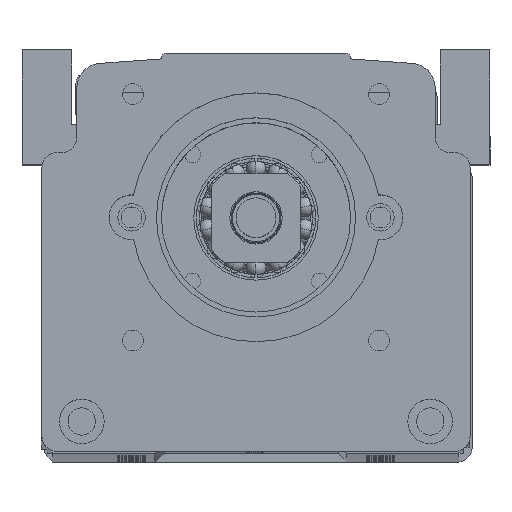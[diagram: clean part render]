
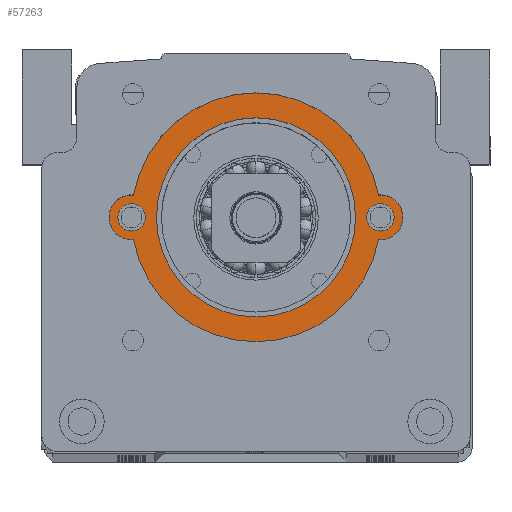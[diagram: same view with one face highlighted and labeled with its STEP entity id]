
A CAD part, top view. The second image highlights one B-rep face of the part: STEP entity #57263.
In plain terms, the highlighted planar face has unit normal (0, 0, 1).
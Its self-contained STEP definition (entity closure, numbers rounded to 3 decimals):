
#386 = CARTESIAN_POINT ( 'NONE',  ( -35.893, 5.327, 7. ) ) ;
#833 = FACE_BOUND ( 'NONE', #45775, .T. ) ;
#1641 = CIRCLE ( 'NONE', #65913, 2.75 ) ;
#2782 = EDGE_CURVE ( 'NONE', #11215, #67958, #67898, .T. ) ;
#3803 = EDGE_CURVE ( 'NONE', #17697, #31307, #25115, .T. ) ;
#4068 = AXIS2_PLACEMENT_3D ( 'NONE', #48713, #15307, #54299 ) ;
#4134 = CIRCLE ( 'NONE', #32275, 25. ) ;
#4361 = AXIS2_PLACEMENT_3D ( 'NONE', #28226, #67211, #33853 ) ;
#4595 = VERTEX_POINT ( 'NONE', #386 ) ;
#4916 = ORIENTED_EDGE ( 'NONE', *, *, #68003, .F. ) ;
#5383 = CARTESIAN_POINT ( 'NONE',  ( -8.143, 5.327, 7. ) ) ;
#5992 = AXIS2_PLACEMENT_3D ( 'NONE', #14630, #53622, #20259 ) ;
#7217 = DIRECTION ( 'NONE',  ( 0., 0., 1. ) ) ;
#9153 = PLANE ( 'NONE',  #45597 ) ;
#9473 = DIRECTION ( 'NONE',  ( 0., 0., 1. ) ) ;
#10166 = EDGE_CURVE ( 'NONE', #4595, #63465, #42145, .T. ) ;
#10446 = CIRCLE ( 'NONE', #28180, 2.75 ) ;
#10984 = DIRECTION ( 'NONE',  ( 1., 0., 0. ) ) ;
#11215 = VERTEX_POINT ( 'NONE', #12365 ) ;
#11304 = CARTESIAN_POINT ( 'NONE',  ( 21.357, 5.327, 7. ) ) ;
#11402 = AXIS2_PLACEMENT_3D ( 'NONE', #48566, #15159, #54167 ) ;
#12365 = CARTESIAN_POINT ( 'NONE',  ( -32.738, 9.808, 7. ) ) ;
#13916 = FACE_BOUND ( 'NONE', #39860, .T. ) ;
#14133 = DIRECTION ( 'NONE',  ( 0., 0., 1. ) ) ;
#14630 = CARTESIAN_POINT ( 'NONE',  ( 16.857, 5.327, 7. ) ) ;
#14672 = CARTESIAN_POINT ( 'NONE',  ( -28.143, 5.327, 7. ) ) ;
#14837 = EDGE_CURVE ( 'NONE', #63465, #4595, #10446, .T. ) ;
#14957 = CIRCLE ( 'NONE', #5992, 2.75 ) ;
#15159 = DIRECTION ( 'NONE',  ( 0., 0., 1. ) ) ;
#15307 = DIRECTION ( 'NONE',  ( 0., 0., 1. ) ) ;
#16577 = VERTEX_POINT ( 'NONE', #42571 ) ;
#17697 = VERTEX_POINT ( 'NONE', #11304 ) ;
#18218 = ORIENTED_EDGE ( 'NONE', *, *, #3803, .T. ) ;
#20095 = CIRCLE ( 'NONE', #52738, 20. ) ;
#20259 = DIRECTION ( 'NONE',  ( 1., 0., 0. ) ) ;
#20389 = DIRECTION ( 'NONE',  ( 1., 0., 0. ) ) ;
#21635 = EDGE_LOOP ( 'NONE', ( #57720, #32199 ) ) ;
#24446 = DIRECTION ( 'NONE',  ( 0., 0., 1. ) ) ;
#24619 = CARTESIAN_POINT ( 'NONE',  ( 16.452, 0.845, 7. ) ) ;
#25115 = CIRCLE ( 'NONE', #11402, 4.5 ) ;
#25179 = CARTESIAN_POINT ( 'NONE',  ( 16.857, 5.327, 7. ) ) ;
#26492 = ORIENTED_EDGE ( 'NONE', *, *, #59471, .T. ) ;
#26891 = CARTESIAN_POINT ( 'NONE',  ( -33.143, 5.327, 7. ) ) ;
#28180 = AXIS2_PLACEMENT_3D ( 'NONE', #40582, #7217, #46184 ) ;
#28226 = CARTESIAN_POINT ( 'NONE',  ( -33.143, 5.327, 7. ) ) ;
#29424 = VERTEX_POINT ( 'NONE', #14672 ) ;
#29508 = CARTESIAN_POINT ( 'NONE',  ( 14.107, 5.327, 7. ) ) ;
#30767 = DIRECTION ( 'NONE',  ( 1., 0., 0. ) ) ;
#31307 = VERTEX_POINT ( 'NONE', #66200 ) ;
#32194 = CIRCLE ( 'NONE', #36832, 25. ) ;
#32199 = ORIENTED_EDGE ( 'NONE', *, *, #14837, .F. ) ;
#32275 = AXIS2_PLACEMENT_3D ( 'NONE', #42849, #9473, #48472 ) ;
#32498 = DIRECTION ( 'NONE',  ( 1., 0., 0. ) ) ;
#33853 = DIRECTION ( 'NONE',  ( 1., 0., 0. ) ) ;
#34908 = VERTEX_POINT ( 'NONE', #29508 ) ;
#34929 = ORIENTED_EDGE ( 'NONE', *, *, #42031, .T. ) ;
#35885 = EDGE_CURVE ( 'NONE', #67958, #59184, #32194, .T. ) ;
#36407 = ORIENTED_EDGE ( 'NONE', *, *, #69245, .F. ) ;
#36832 = AXIS2_PLACEMENT_3D ( 'NONE', #47500, #14133, #53136 ) ;
#37511 = EDGE_CURVE ( 'NONE', #16577, #34908, #1641, .T. ) ;
#39294 = VERTEX_POINT ( 'NONE', #58315 ) ;
#39860 = EDGE_LOOP ( 'NONE', ( #36407, #57512 ) ) ;
#40332 = CIRCLE ( 'NONE', #4068, 20. ) ;
#40582 = CARTESIAN_POINT ( 'NONE',  ( -33.143, 5.327, 7. ) ) ;
#42031 = EDGE_CURVE ( 'NONE', #59184, #17697, #45854, .T. ) ;
#42145 = CIRCLE ( 'NONE', #48969, 2.75 ) ;
#42571 = CARTESIAN_POINT ( 'NONE',  ( 19.607, 5.327, 7. ) ) ;
#42849 = CARTESIAN_POINT ( 'NONE',  ( -8.143, 5.327, 7. ) ) ;
#44340 = DIRECTION ( 'NONE',  ( 0., 0., 1. ) ) ;
#44363 = CARTESIAN_POINT ( 'NONE',  ( -30.393, 5.327, 7. ) ) ;
#45597 = AXIS2_PLACEMENT_3D ( 'NONE', #48146, #53748, #20389 ) ;
#45775 = EDGE_LOOP ( 'NONE', ( #52765, #4916 ) ) ;
#45854 = CIRCLE ( 'NONE', #52987, 4.5 ) ;
#46184 = DIRECTION ( 'NONE',  ( 1., 0., 0. ) ) ;
#47500 = CARTESIAN_POINT ( 'NONE',  ( -8.143, 5.327, 7. ) ) ;
#48146 = CARTESIAN_POINT ( 'NONE',  ( -33.143, 5.327, 7. ) ) ;
#48472 = DIRECTION ( 'NONE',  ( 1., 0., 0. ) ) ;
#48566 = CARTESIAN_POINT ( 'NONE',  ( 16.857, 5.327, 7. ) ) ;
#48713 = CARTESIAN_POINT ( 'NONE',  ( -8.143, 5.327, 7. ) ) ;
#48969 = AXIS2_PLACEMENT_3D ( 'NONE', #26891, #65863, #32498 ) ;
#52738 = AXIS2_PLACEMENT_3D ( 'NONE', #5383, #44340, #10984 ) ;
#52765 = ORIENTED_EDGE ( 'NONE', *, *, #70891, .F. ) ;
#52987 = AXIS2_PLACEMENT_3D ( 'NONE', #25179, #64161, #30767 ) ;
#53136 = DIRECTION ( 'NONE',  ( 1., 0., 0. ) ) ;
#53622 = DIRECTION ( 'NONE',  ( 0., 0., 1. ) ) ;
#53748 = DIRECTION ( 'NONE',  ( 0., 0., 1. ) ) ;
#53818 = CARTESIAN_POINT ( 'NONE',  ( -32.738, 0.845, 7. ) ) ;
#54167 = DIRECTION ( 'NONE',  ( 1., 0., 0. ) ) ;
#54299 = DIRECTION ( 'NONE',  ( 1., 0., 0. ) ) ;
#56633 = FACE_OUTER_BOUND ( 'NONE', #64327, .T. ) ;
#57263 = ADVANCED_FACE ( 'NONE', ( #71487, #56633, #13916, #833 ), #9153, .T. ) ;
#57512 = ORIENTED_EDGE ( 'NONE', *, *, #37511, .F. ) ;
#57720 = ORIENTED_EDGE ( 'NONE', *, *, #10166, .F. ) ;
#57815 = CARTESIAN_POINT ( 'NONE',  ( 16.857, 5.327, 7. ) ) ;
#58315 = CARTESIAN_POINT ( 'NONE',  ( 11.857, 5.327, 7. ) ) ;
#59184 = VERTEX_POINT ( 'NONE', #24619 ) ;
#59471 = EDGE_CURVE ( 'NONE', #31307, #11215, #4134, .T. ) ;
#63460 = DIRECTION ( 'NONE',  ( 1., 0., 0. ) ) ;
#63465 = VERTEX_POINT ( 'NONE', #44363 ) ;
#64161 = DIRECTION ( 'NONE',  ( 0., 0., 1. ) ) ;
#64327 = EDGE_LOOP ( 'NONE', ( #72280, #72037, #34929, #18218, #26492 ) ) ;
#65863 = DIRECTION ( 'NONE',  ( 0., 0., 1. ) ) ;
#65913 = AXIS2_PLACEMENT_3D ( 'NONE', #57815, #24446, #63460 ) ;
#66200 = CARTESIAN_POINT ( 'NONE',  ( 16.452, 9.808, 7. ) ) ;
#67211 = DIRECTION ( 'NONE',  ( 0., 0., 1. ) ) ;
#67898 = CIRCLE ( 'NONE', #4361, 4.5 ) ;
#67958 = VERTEX_POINT ( 'NONE', #53818 ) ;
#68003 = EDGE_CURVE ( 'NONE', #39294, #29424, #40332, .T. ) ;
#69245 = EDGE_CURVE ( 'NONE', #34908, #16577, #14957, .T. ) ;
#70891 = EDGE_CURVE ( 'NONE', #29424, #39294, #20095, .T. ) ;
#71487 = FACE_BOUND ( 'NONE', #21635, .T. ) ;
#72037 = ORIENTED_EDGE ( 'NONE', *, *, #35885, .T. ) ;
#72280 = ORIENTED_EDGE ( 'NONE', *, *, #2782, .T. ) ;
